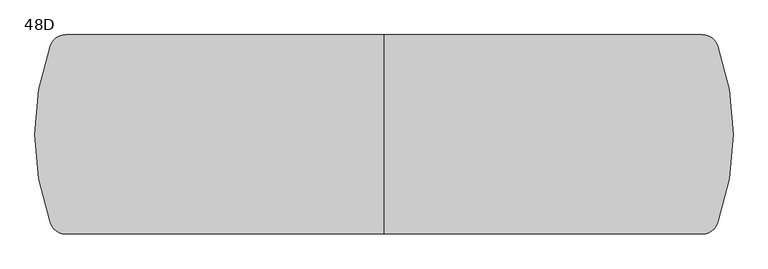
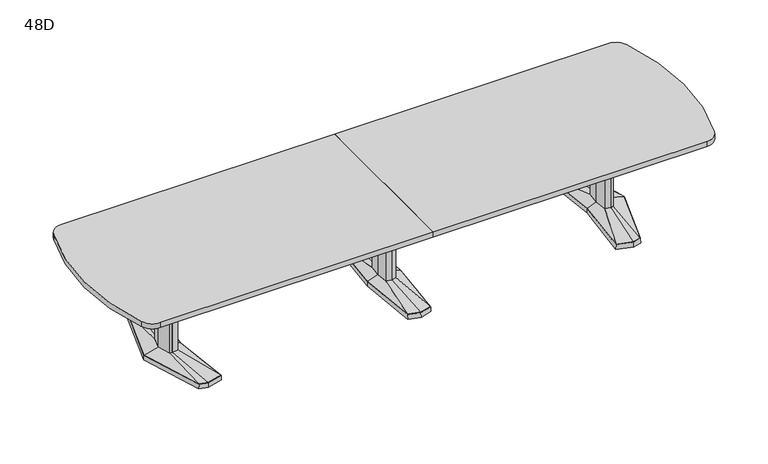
"""IFC4 building model written with IfcOpenShell, lengths in millimetres: furniture geometry, Coalesse_AM_Table_Conference_ETable2_SoftRadiused_14ft_AluminiumBase : 48D."""

from ifc_helpers import new_model, si_unit, point, frame, frame_2d, origin, place, context, project, spatial, polyline, circle_curve, trimmed, segment, composite_curve, outline, extrude, faceted_brep, source, transform, mapped, element, save
from ifc_brep_helpers import plane_surface, spline_surface, advanced_brep


def furniture_48d_125f9e31(model_context):
    return source(origin(), model_context, "Body", "SolidModel", [
        faceted_brep([(-81.2333791, -433.8053819, 38.1), (0.0, -455.556576, 38.1), (81.2333791, -433.8053819, 38.1), (119.0564774, 0.0, 38.1), (81.2333791, 433.8053819, 38.1), (0.0, 455.556576, 38.1), (-81.2333791, 433.8053819, 38.1), (-119.0564774, 0.0, 38.1), (-82.7182795, -435.0512063, 3.175), (-120.65, 0.0, 3.175), (-82.7182795, 435.0512063, 3.175), (0.0, 457.2, 3.175), (82.7182795, 435.0512063, 3.175), (120.65, 0.0, 3.175), (82.7182795, -435.0512063, 3.175), (0.0, -457.2, 3.175), (0.0, 429.2617927, 3.175), (-77.9676806, 408.3850278, 3.175), (-74.7019821, 382.9646737, 3.175), (0.0, 402.9670094, 3.175), (74.7019821, 382.9646737, 3.175), (77.9676806, 408.3850278, 3.175), (0.0, -429.2617927, 3.175), (77.9676806, -408.3850278, 3.175), (74.7019821, -382.9646737, 3.175), (0.0, -402.9670094, 3.175), (-74.7019821, -382.9646737, 3.175), (-77.9676806, -408.3850278, 3.175), (-71.8574262, 114.6326257, 3.175), (-82.5426076, 0.0, 3.175), (-71.8574262, -114.6326257, 3.175), (0.0, -133.8761372, 3.175), (71.8574262, -114.6326257, 3.175), (82.5426076, 0.0, 3.175), (71.8574262, 114.6326257, 3.175), (0.0, 133.8761372, 3.175), (0.0, 429.2617927, 0.0), (77.9676806, 408.3850278, 0.0), (74.7019821, 382.9646737, 0.0), (0.0, 402.9670094, 0.0), (-74.7019821, 382.9646737, 0.0), (-77.9676806, 408.3850278, 0.0), (0.0, -429.2617927, 0.0), (-77.9676806, -408.3850278, 0.0), (-74.7019821, -382.9646737, 0.0), (0.0, -402.9670094, 0.0), (74.7019821, -382.9646737, 0.0), (77.9676806, -408.3850278, 0.0), (-71.8574262, 114.6326257, 0.0), (0.0, 133.8761372, 0.0), (71.8574262, 114.6326257, 0.0), (82.5426076, 0.0, 0.0), (71.8574262, -114.6326257, 0.0), (0.0, -133.8761372, 0.0), (-71.8574262, -114.6326257, 0.0), (-82.5426076, 0.0, 0.0)], [[[0, 1, 2, 3, 4, 5, 6, 7]], [[8, 9, 10, 11, 12, 13, 14, 15], [16, 17, 18, 19, 20, 21], [22, 23, 24, 25, 26, 27], [28, 29, 30, 31, 32, 33, 34, 35]], [[1, 0, 8, 15]], [[2, 1, 15, 14]], [[3, 2, 14, 13]], [[4, 3, 13, 12]], [[5, 4, 12, 11]], [[6, 5, 11, 10]], [[7, 6, 10, 9]], [[0, 7, 9, 8]], [[36, 37, 38, 39, 40, 41]], [[42, 43, 44, 45, 46, 47]], [[48, 49, 50, 51, 52, 53, 54, 55]], [[36, 41, 17, 16]], [[41, 40, 18, 17]], [[40, 39, 19, 18]], [[39, 38, 20, 19]], [[38, 37, 21, 20]], [[37, 36, 16, 21]], [[42, 47, 23, 22]], [[47, 46, 24, 23]], [[46, 45, 25, 24]], [[45, 44, 26, 25]], [[44, 43, 27, 26]], [[43, 42, 22, 27]], [[48, 55, 29, 28]], [[55, 54, 30, 29]], [[54, 53, 31, 30]], [[53, 52, 32, 31]], [[52, 51, 33, 32]], [[51, 50, 34, 33]], [[50, 49, 35, 34]], [[49, 48, 28, 35]]]),
        faceted_brep([(-36.3832834, 84.6900825, 698.5), (-44.2774487, 0.0, 698.5), (-36.3832834, -84.6900825, 698.5), (0.0, -94.4335728, 698.5), (36.3832834, -84.6900825, 698.5), (44.2774487, 0.0, 698.5), (36.3832834, 84.6900825, 698.5), (0.0, 94.4335728, 698.5), (-36.3832834, 84.6900825, 63.5), (0.0, 94.4335728, 63.5), (36.3832834, 84.6900825, 63.5), (44.2774487, 0.0, 63.5), (36.3832834, -84.6900825, 63.5), (0.0, -94.4335728, 63.5), (-36.3832834, -84.6900825, 63.5), (-44.2774487, 0.0, 63.5)], [[[0, 1, 2, 3, 4, 5, 6, 7]], [[8, 9, 10, 11, 12, 13, 14, 15]], [[1, 0, 8, 15]], [[2, 1, 15, 14]], [[3, 2, 14, 13]], [[4, 3, 13, 12]], [[5, 4, 12, 11]], [[6, 5, 11, 10]], [[7, 6, 10, 9]], [[0, 7, 9, 8]]]),
        advanced_brep(
        [(-36.3832834, 84.6900825, 63.5), (-44.2774487, 0.0, 63.5), (-36.3832834, -84.6900825, 63.5), (0.0, -94.4335728, 63.5), (36.3832834, -84.6900825, 63.5), (44.2774487, 0.0, 63.5), (36.3832834, 84.6900825, 63.5), (0.0, 94.4335728, 63.5), (-81.2333791, 433.8053819, 38.1), (0.0, 455.556576, 38.1), (81.2333791, 433.8053819, 38.1), (119.0564774, 0.0, 38.1), (81.2333791, -433.8053819, 38.1), (0.0, -455.556576, 38.1), (-81.2333791, -433.8053819, 38.1), (-119.0564774, 0.0, 38.1)],
        [
            (0, 1),
            (1, 2),
            (2, 3),
            (3, 4),
            (4, 5),
            (5, 6),
            (6, 7),
            (7, 0),
            (8, 9),
            (9, 10),
            (10, 11),
            (11, 12),
            (12, 13),
            (13, 14),
            (14, 15),
            (15, 8),
            (15, 1),
            (0, 8),
            (14, 2),
            (13, 3),
            (12, 4),
            (11, 5),
            (10, 6),
            (9, 7),
        ],
        [
            plane_surface(frame((0.0, 0.0, 63.5), z_axis=(0.0, 0.0, 1.0000000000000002), x_axis=(-0.9659615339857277, -0.25868574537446, 0.0))),
            plane_surface(frame((0.0, 0.0, 38.1), z_axis=(0.0, 0.0, -1.0000000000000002), x_axis=(-0.9659615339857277, -0.25868574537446, 0.0))),
            spline_surface(1, 1, [[(-81.2333791, 433.8053819, 38.1), (-36.3832834, 84.6900825, 63.5)], [(-119.0564774, 0.0, 38.1), (-44.2774487, 0.0, 63.5)]], [2, 2], [2, 2], [0.0, 1.0], [0.0, 1.0]),
            spline_surface(1, 1, [[(-119.0564774, 0.0, 38.1), (-44.2774487, 0.0, 63.5)], [(-81.2333791, -433.8053819, 38.1), (-36.3832834, -84.6900825, 63.5)]], [2, 2], [2, 2], [0.0, 1.0], [0.0, 1.0]),
            spline_surface(1, 1, [[(-81.2333791, -433.8053819, 38.1), (-36.3832834, -84.6900825, 63.5)], [(0.0, -455.556576, 38.1), (0.0, -94.4335728, 63.5)]], [2, 2], [2, 2], [0.0, 1.0], [0.0, 1.0]),
            spline_surface(1, 1, [[(0.0, -455.556576, 38.1), (0.0, -94.4335728, 63.5)], [(81.2333791, -433.8053819, 38.1), (36.3832834, -84.6900825, 63.5)]], [2, 2], [2, 2], [0.0, 1.0], [0.0, 1.0]),
            spline_surface(1, 1, [[(81.2333791, -433.8053819, 38.1), (36.3832834, -84.6900825, 63.5)], [(119.0564774, 0.0, 38.1), (44.2774487, 0.0, 63.5)]], [2, 2], [2, 2], [0.0, 1.0], [0.0, 1.0]),
            spline_surface(1, 1, [[(119.0564774, 0.0, 38.1), (44.2774487, 0.0, 63.5)], [(81.2333791, 433.8053819, 38.1), (36.3832834, 84.6900825, 63.5)]], [2, 2], [2, 2], [0.0, 1.0], [0.0, 1.0]),
            spline_surface(1, 1, [[(81.2333791, 433.8053819, 38.1), (36.3832834, 84.6900825, 63.5)], [(0.0, 455.556576, 38.1), (0.0, 94.4335728, 63.5)]], [2, 2], [2, 2], [0.0, 1.0], [0.0, 1.0]),
            spline_surface(1, 1, [[(0.0, 455.556576, 38.1), (0.0, 94.4335728, 63.5)], [(-81.2333791, 433.8053819, 38.1), (-36.3832834, 84.6900825, 63.5)]], [2, 2], [2, 2], [0.0, 1.0], [0.0, 1.0]),
        ],
        [
            (0, [[1, 2, 3, 4, 5, 6, 7, 8]]),
            (1, [[9, 10, 11, 12, 13, 14, 15, 16]]),
            (2, [[-16, 17, -1, 18]]),
            (3, [[-15, 19, -2, -17]]),
            (4, [[-14, 20, -3, -19]]),
            (5, [[-13, 21, -4, -20]]),
            (6, [[-12, 22, -5, -21]]),
            (7, [[-11, 23, -6, -22]]),
            (8, [[-10, 24, -7, -23]]),
            (9, [[-9, -18, -8, -24]]),
        ],
    ),
        faceted_brep([(1515.4306835, 455.5848221, 38.1), (1405.8531277, 426.2263816, 38.1), (1447.0163717, 0.0, 38.1), (1405.8531277, -426.2263816, 38.1), (1515.4306835, -455.5848221, 38.1), (1571.5570396, -440.5478297, 38.1), (1708.8684269, 0.0, 38.1), (1571.5570396, 440.5478297, 38.1), (1515.4306754, 457.2283104, 3.175), (1572.8124472, 441.8549756, 3.175), (1710.53125, 0.0, 3.175), (1572.8124472, -441.8549756, 3.175), (1515.4306754, -457.2283104, 3.175), (1404.14375, -427.4118891, 3.175), (1445.4214856, 0.0, 3.175), (1404.14375, 427.4118891, 3.175), (1519.020115, 428.3273875, 3.175), (1413.9718228, 402.1057253, 3.175), (1422.090518, 377.985069, 3.175), (1522.6095466, 401.0699529, 3.175), (1573.1691725, 387.524361, 3.175), (1572.3631061, 414.0360954, 3.175), (1519.020115, -428.3273875, 3.175), (1572.3631061, -414.0360954, 3.175), (1573.1691725, -387.524361, 3.175), (1522.6095466, -401.0699529, 3.175), (1422.090518, -377.985069, 3.175), (1413.9718228, -402.1057253, 3.175), (1645.6153621, 0.0, 3.175), (1613.3459611, 120.4193755, 3.175), (1564.6987222, 133.471665, 3.175), (1484.8180526, 119.4176561, 3.175), (1473.6868466, 0.0, 3.175), (1484.8180526, -119.4176561, 3.175), (1564.6987222, -133.471665, 3.175), (1613.3459611, -120.4193755, 3.175), (1519.020115, 428.3273875, 0.0), (1572.3631061, 414.0360954, 0.0), (1573.1691725, 387.524361, 0.0), (1522.6095466, 401.0699529, 0.0), (1422.090518, 377.985069, 0.0), (1413.9718228, 402.1057253, 0.0), (1519.020115, -428.3273875, 0.0), (1413.9718228, -402.1057253, 0.0), (1422.090518, -377.985069, 0.0), (1522.6095466, -401.0699529, 0.0), (1573.1691725, -387.524361, 0.0), (1572.3631061, -414.0360954, 0.0), (1645.6153621, 0.0, 0.0), (1613.3459611, -120.4193755, 0.0), (1564.6987222, -133.471665, 0.0), (1484.8180526, -119.4176561, 0.0), (1473.6868466, 0.0, 0.0), (1484.8180526, 119.4176561, 0.0), (1564.6987222, 133.471665, 0.0), (1613.3459611, 120.4193755, 0.0)], [[[0, 1, 2, 3, 4, 5, 6, 7]], [[8, 9, 10, 11, 12, 13, 14, 15], [16, 17, 18, 19, 20, 21], [22, 23, 24, 25, 26, 27], [28, 29, 30, 31, 32, 33, 34, 35]], [[7, 9, 8, 0]], [[6, 10, 9, 7]], [[5, 11, 10, 6]], [[4, 12, 11, 5]], [[3, 13, 12, 4]], [[2, 14, 13, 3]], [[1, 15, 14, 2]], [[0, 8, 15, 1]], [[36, 37, 38, 39, 40, 41]], [[42, 43, 44, 45, 46, 47]], [[48, 49, 50, 51, 52, 53, 54, 55]], [[36, 16, 21, 37]], [[37, 21, 20, 38]], [[38, 20, 19, 39]], [[39, 19, 18, 40]], [[40, 18, 17, 41]], [[41, 17, 16, 36]], [[42, 22, 27, 43]], [[43, 27, 26, 44]], [[44, 26, 25, 45]], [[45, 25, 24, 46]], [[46, 24, 23, 47]], [[47, 23, 22, 42]], [[48, 28, 35, 49]], [[49, 35, 34, 50]], [[50, 34, 33, 51]], [[51, 33, 32, 52]], [[52, 32, 31, 53]], [[53, 31, 30, 54]], [[54, 30, 29, 55]], [[55, 29, 28, 48]]]),
        faceted_brep([(1606.1710836, 0.0, 698.5), (1582.2358546, 89.3188359, 698.5), (1565.3824984, 93.8406728, 698.5), (1562.9826511, 94.4845635, 698.5), (1520.055146, 86.9320037, 698.5), (1511.9520056, 0.0, 698.5), (1520.055146, -86.9320037, 698.5), (1562.9826511, -94.4845635, 698.5), (1565.3824984, -93.8406728, 698.5), (1582.2358546, -89.3188359, 698.5), (1606.1710836, 0.0, 63.5), (1582.2358546, -89.3188359, 63.5), (1565.3824984, -93.8406728, 63.5), (1562.9826511, -94.4845635, 63.5), (1520.055146, -86.9320037, 63.5), (1511.9520056, 0.0, 63.5), (1520.055146, 86.9320037, 63.5), (1562.9826511, 94.4845635, 63.5), (1565.3824984, 93.8406728, 63.5), (1582.2358546, 89.3188359, 63.5)], [[[0, 1, 2, 3, 4, 5, 6, 7, 8, 9]], [[10, 11, 12, 13, 14, 15, 16, 17, 18, 19]], [[9, 11, 10, 0]], [[8, 12, 11, 9]], [[7, 13, 12, 8]], [[6, 14, 13, 7]], [[5, 15, 14, 6]], [[4, 16, 15, 5]], [[3, 17, 16, 4]], [[2, 18, 17, 3]], [[1, 19, 18, 2]], [[0, 10, 19, 1]]]),
        advanced_brep(
        [(1562.9826511, 94.4845635, 63.5), (1520.055146, 86.9320037, 63.5), (1511.9520056, 0.0, 63.5), (1520.055146, -86.9320037, 63.5), (1562.9826511, -94.4845635, 63.5), (1582.2358546, -89.3188359, 63.5), (1606.1710836, 0.0, 63.5), (1582.2358546, 89.3188359, 63.5), (1515.4306835, 455.5848221, 38.1), (1571.5570396, 440.5478297, 38.1), (1708.8684269, 0.0, 38.1), (1571.5570396, -440.5478297, 38.1), (1515.4306835, -455.5848221, 38.1), (1405.8531277, -426.2263816, 38.1), (1447.0163717, 0.0, 38.1), (1405.8531277, 426.2263816, 38.1)],
        [
            (0, 1),
            (1, 2),
            (2, 3),
            (3, 4),
            (4, 5),
            (5, 6),
            (6, 7),
            (7, 0),
            (8, 9),
            (9, 10),
            (10, 11),
            (11, 12),
            (12, 13),
            (13, 14),
            (14, 15),
            (15, 8),
            (8, 0),
            (7, 9),
            (6, 10),
            (5, 11),
            (4, 12),
            (3, 13),
            (2, 14),
            (1, 15),
        ],
        [
            plane_surface(frame((1556.0837991, 0.0, 63.5), z_axis=(0.0, 0.0, 1.0), x_axis=(-0.25884244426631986, -0.9659195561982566, 0.0))),
            plane_surface(frame((1517.6958125, 0.0, 38.1), z_axis=(0.0, 0.0, -1.0), x_axis=(-0.25884244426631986, -0.9659195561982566, 0.0))),
            spline_surface(1, 1, [[(1515.4306835, 455.5848221, 38.1), (1571.5570396, 440.5478297, 38.1)], [(1562.9826511, 94.4845635, 63.5), (1582.2358546, 89.3188359, 63.5)]], [2, 2], [2, 2], [0.0, 1.0], [0.0, 1.0]),
            spline_surface(1, 1, [[(1571.5570396, 440.5478297, 38.1), (1708.8684269, 0.0, 38.1)], [(1582.2358546, 89.3188359, 63.5), (1606.1710836, 0.0, 63.5)]], [2, 2], [2, 2], [0.0, 1.0], [0.0, 1.0]),
            spline_surface(1, 1, [[(1708.8684269, 0.0, 38.1), (1571.5570396, -440.5478297, 38.1)], [(1606.1710836, 0.0, 63.5), (1582.2358546, -89.3188359, 63.5)]], [2, 2], [2, 2], [0.0, 1.0], [0.0, 1.0]),
            spline_surface(1, 1, [[(1571.5570396, -440.5478297, 38.1), (1515.4306835, -455.5848221, 38.1)], [(1582.2358546, -89.3188359, 63.5), (1562.9826511, -94.4845635, 63.5)]], [2, 2], [2, 2], [0.0, 1.0], [0.0, 1.0]),
            spline_surface(1, 1, [[(1515.4306835, -455.5848221, 38.1), (1405.8531277, -426.2263816, 38.1)], [(1562.9826511, -94.4845635, 63.5), (1520.055146, -86.9320037, 63.5)]], [2, 2], [2, 2], [0.0, 1.0], [0.0, 1.0]),
            spline_surface(1, 1, [[(1405.8531277, -426.2263816, 38.1), (1447.0163717, 0.0, 38.1)], [(1520.055146, -86.9320037, 63.5), (1511.9520056, 0.0, 63.5)]], [2, 2], [2, 2], [0.0, 1.0], [0.0, 1.0]),
            spline_surface(1, 1, [[(1447.0163717, 0.0, 38.1), (1405.8531277, 426.2263816, 38.1)], [(1511.9520056, 0.0, 63.5), (1520.055146, 86.9320037, 63.5)]], [2, 2], [2, 2], [0.0, 1.0], [0.0, 1.0]),
            spline_surface(1, 1, [[(1405.8531277, 426.2263816, 38.1), (1515.4306835, 455.5848221, 38.1)], [(1520.055146, 86.9320037, 63.5), (1562.9826511, 94.4845635, 63.5)]], [2, 2], [2, 2], [0.0, 1.0], [0.0, 1.0]),
        ],
        [
            (0, [[1, 2, 3, 4, 5, 6, 7, 8]]),
            (1, [[9, 10, 11, 12, 13, 14, 15, 16]]),
            (2, [[17, -8, 18, -9]]),
            (3, [[-18, -7, 19, -10]]),
            (4, [[-19, -6, 20, -11]]),
            (5, [[-20, -5, 21, -12]]),
            (6, [[-21, -4, 22, -13]]),
            (7, [[-22, -3, 23, -14]]),
            (8, [[-23, -2, 24, -15]]),
            (9, [[-24, -1, -17, -16]]),
        ],
    ),
        faceted_brep([(-1515.4306835, 455.5848221, 38.1), (-1571.5570396, 440.5478297, 38.1), (-1708.8684269, 0.0, 38.1), (-1571.5570396, -440.5478297, 38.1), (-1515.4306835, -455.5848221, 38.1), (-1405.8531277, -426.2263816, 38.1), (-1447.0163717, 0.0, 38.1), (-1405.8531277, 426.2263816, 38.1), (-1515.4306754, 457.2283104, 3.175), (-1404.14375, 427.4118891, 3.175), (-1445.4214856, 0.0, 3.175), (-1404.14375, -427.4118891, 3.175), (-1515.4306754, -457.2283104, 3.175), (-1572.8124472, -441.8549756, 3.175), (-1710.53125, 0.0, 3.175), (-1572.8124472, 441.8549756, 3.175), (-1519.020115, 428.3273875, 3.175), (-1572.3631061, 414.0360954, 3.175), (-1573.1691725, 387.524361, 3.175), (-1522.6095466, 401.0699529, 3.175), (-1422.090518, 377.985069, 3.175), (-1413.9718228, 402.1057253, 3.175), (-1519.020115, -428.3273875, 3.175), (-1413.9718228, -402.1057253, 3.175), (-1422.090518, -377.985069, 3.175), (-1522.6095466, -401.0699529, 3.175), (-1573.1691725, -387.524361, 3.175), (-1572.3631061, -414.0360954, 3.175), (-1645.6153621, 0.0, 3.175), (-1613.3459611, -120.4193755, 3.175), (-1564.6987222, -133.471665, 3.175), (-1484.8180526, -119.4176561, 3.175), (-1473.6868466, 0.0, 3.175), (-1484.8180526, 119.4176561, 3.175), (-1564.6987222, 133.471665, 3.175), (-1613.3459611, 120.4193755, 3.175), (-1519.020115, 428.3273875, 0.0), (-1413.9718228, 402.1057253, 0.0), (-1422.090518, 377.985069, 0.0), (-1522.6095466, 401.0699529, 0.0), (-1573.1691725, 387.524361, 0.0), (-1572.3631061, 414.0360954, 0.0), (-1519.020115, -428.3273875, 0.0), (-1572.3631061, -414.0360954, 0.0), (-1573.1691725, -387.524361, 0.0), (-1522.6095466, -401.0699529, 0.0), (-1422.090518, -377.985069, 0.0), (-1413.9718228, -402.1057253, 0.0), (-1645.6153621, 0.0, 0.0), (-1613.3459611, 120.4193755, 0.0), (-1564.6987222, 133.471665, 0.0), (-1484.8180526, 119.4176561, 0.0), (-1473.6868466, 0.0, 0.0), (-1484.8180526, -119.4176561, 0.0), (-1564.6987222, -133.471665, 0.0), (-1613.3459611, -120.4193755, 0.0)], [[[0, 1, 2, 3, 4, 5, 6, 7]], [[8, 9, 10, 11, 12, 13, 14, 15], [16, 17, 18, 19, 20, 21], [22, 23, 24, 25, 26, 27], [28, 29, 30, 31, 32, 33, 34, 35]], [[1, 0, 8, 15]], [[2, 1, 15, 14]], [[3, 2, 14, 13]], [[4, 3, 13, 12]], [[5, 4, 12, 11]], [[6, 5, 11, 10]], [[7, 6, 10, 9]], [[0, 7, 9, 8]], [[36, 37, 38, 39, 40, 41]], [[42, 43, 44, 45, 46, 47]], [[48, 49, 50, 51, 52, 53, 54, 55]], [[36, 41, 17, 16]], [[41, 40, 18, 17]], [[40, 39, 19, 18]], [[39, 38, 20, 19]], [[38, 37, 21, 20]], [[37, 36, 16, 21]], [[42, 47, 23, 22]], [[47, 46, 24, 23]], [[46, 45, 25, 24]], [[45, 44, 26, 25]], [[44, 43, 27, 26]], [[43, 42, 22, 27]], [[48, 55, 29, 28]], [[55, 54, 30, 29]], [[54, 53, 31, 30]], [[53, 52, 32, 31]], [[52, 51, 33, 32]], [[51, 50, 34, 33]], [[50, 49, 35, 34]], [[49, 48, 28, 35]]]),
        faceted_brep([(-1606.1710836, 0.0, 698.5), (-1582.2358546, -89.3188359, 698.5), (-1565.3824984, -93.8406728, 698.5), (-1562.9826511, -94.4845635, 698.5), (-1520.055146, -86.9320037, 698.5), (-1511.9520056, 0.0, 698.5), (-1520.055146, 86.9320037, 698.5), (-1562.9826511, 94.4845635, 698.5), (-1565.3824984, 93.8406728, 698.5), (-1582.2358546, 89.3188359, 698.5), (-1606.1710836, 0.0, 63.5), (-1582.2358546, 89.3188359, 63.5), (-1565.3824984, 93.8406728, 63.5), (-1562.9826511, 94.4845635, 63.5), (-1520.055146, 86.9320037, 63.5), (-1511.9520056, 0.0, 63.5), (-1520.055146, -86.9320037, 63.5), (-1562.9826511, -94.4845635, 63.5), (-1565.3824984, -93.8406728, 63.5), (-1582.2358546, -89.3188359, 63.5)], [[[0, 1, 2, 3, 4, 5, 6, 7, 8, 9]], [[10, 11, 12, 13, 14, 15, 16, 17, 18, 19]], [[1, 0, 10, 19]], [[2, 1, 19, 18]], [[3, 2, 18, 17]], [[4, 3, 17, 16]], [[5, 4, 16, 15]], [[6, 5, 15, 14]], [[7, 6, 14, 13]], [[8, 7, 13, 12]], [[9, 8, 12, 11]], [[0, 9, 11, 10]]]),
        advanced_brep(
        [(-1562.9826511, 94.4845635, 63.5), (-1582.2358546, 89.3188359, 63.5), (-1606.1710836, 0.0, 63.5), (-1582.2358546, -89.3188359, 63.5), (-1562.9826511, -94.4845635, 63.5), (-1520.055146, -86.9320037, 63.5), (-1511.9520056, 0.0, 63.5), (-1520.055146, 86.9320037, 63.5), (-1515.4306835, 455.5848221, 38.1), (-1405.8531277, 426.2263816, 38.1), (-1447.0163717, 0.0, 38.1), (-1405.8531277, -426.2263816, 38.1), (-1515.4306835, -455.5848221, 38.1), (-1571.5570396, -440.5478297, 38.1), (-1708.8684269, 0.0, 38.1), (-1571.5570396, 440.5478297, 38.1)],
        [
            (0, 1),
            (1, 2),
            (2, 3),
            (3, 4),
            (4, 5),
            (5, 6),
            (6, 7),
            (7, 0),
            (8, 9),
            (9, 10),
            (10, 11),
            (11, 12),
            (12, 13),
            (13, 14),
            (14, 15),
            (15, 8),
            (15, 1),
            (0, 8),
            (14, 2),
            (13, 3),
            (12, 4),
            (11, 5),
            (10, 6),
            (9, 7),
        ],
        [
            plane_surface(frame((-1556.0837991, 0.0, 63.5), z_axis=(0.0, 0.0, 1.0), x_axis=(0.25884244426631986, -0.9659195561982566, 0.0))),
            plane_surface(frame((-1517.6958125, 0.0, 38.1), z_axis=(0.0, 0.0, -1.0), x_axis=(0.25884244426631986, -0.9659195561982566, 0.0))),
            spline_surface(1, 1, [[(-1515.4306835, 455.5848221, 38.1), (-1562.9826511, 94.4845635, 63.5)], [(-1571.5570396, 440.5478297, 38.1), (-1582.2358546, 89.3188359, 63.5)]], [2, 2], [2, 2], [0.0, 1.0], [0.0, 1.0]),
            spline_surface(1, 1, [[(-1571.5570396, 440.5478297, 38.1), (-1582.2358546, 89.3188359, 63.5)], [(-1708.8684269, 0.0, 38.1), (-1606.1710836, 0.0, 63.5)]], [2, 2], [2, 2], [0.0, 1.0], [0.0, 1.0]),
            spline_surface(1, 1, [[(-1708.8684269, 0.0, 38.1), (-1606.1710836, 0.0, 63.5)], [(-1571.5570396, -440.5478297, 38.1), (-1582.2358546, -89.3188359, 63.5)]], [2, 2], [2, 2], [0.0, 1.0], [0.0, 1.0]),
            spline_surface(1, 1, [[(-1571.5570396, -440.5478297, 38.1), (-1582.2358546, -89.3188359, 63.5)], [(-1515.4306835, -455.5848221, 38.1), (-1562.9826511, -94.4845635, 63.5)]], [2, 2], [2, 2], [0.0, 1.0], [0.0, 1.0]),
            spline_surface(1, 1, [[(-1515.4306835, -455.5848221, 38.1), (-1562.9826511, -94.4845635, 63.5)], [(-1405.8531277, -426.2263816, 38.1), (-1520.055146, -86.9320037, 63.5)]], [2, 2], [2, 2], [0.0, 1.0], [0.0, 1.0]),
            spline_surface(1, 1, [[(-1405.8531277, -426.2263816, 38.1), (-1520.055146, -86.9320037, 63.5)], [(-1447.0163717, 0.0, 38.1), (-1511.9520056, 0.0, 63.5)]], [2, 2], [2, 2], [0.0, 1.0], [0.0, 1.0]),
            spline_surface(1, 1, [[(-1447.0163717, 0.0, 38.1), (-1511.9520056, 0.0, 63.5)], [(-1405.8531277, 426.2263816, 38.1), (-1520.055146, 86.9320037, 63.5)]], [2, 2], [2, 2], [0.0, 1.0], [0.0, 1.0]),
            spline_surface(1, 1, [[(-1405.8531277, 426.2263816, 38.1), (-1520.055146, 86.9320037, 63.5)], [(-1515.4306835, 455.5848221, 38.1), (-1562.9826511, 94.4845635, 63.5)]], [2, 2], [2, 2], [0.0, 1.0], [0.0, 1.0]),
        ],
        [
            (0, [[1, 2, 3, 4, 5, 6, 7, 8]]),
            (1, [[9, 10, 11, 12, 13, 14, 15, 16]]),
            (2, [[-16, 17, -1, 18]]),
            (3, [[-15, 19, -2, -17]]),
            (4, [[-14, 20, -3, -19]]),
            (5, [[-13, 21, -4, -20]]),
            (6, [[-12, 22, -5, -21]]),
            (7, [[-11, 23, -6, -22]]),
            (8, [[-10, 24, -7, -23]]),
            (9, [[-9, -18, -8, -24]]),
        ],
    ),
        extrude(outline(polyline([(96.8375, 698.5), (103.1875, 698.5), (103.1875, 476.25), (-103.1875, 476.25), (-103.1875, 698.5), (-96.8375, 698.5), (-96.8375, 482.6), (96.8375, 482.6), (96.8375, 698.5)])), frame((44.2774487, 0.0, 0.0), z_axis=(1.0, 0.0, 0.0), x_axis=(0.0, 1.0, 0.0)), (0.0, 0.0, 1.0), 1467.8163013),
        extrude(outline(composite_curve([segment(trimmed(circle_curve(frame_2d((1944.4557965, 508.0)), 101.6), [point((1944.4557965, 609.6))], [point((2040.2453259, 541.8662966))], False, "CARTESIAN"), True, "CONTINUOUS"), segment(polyline([(2040.2453259, 541.8662966), (2040.9956256, 539.7441026)]), True, "CONTINUOUS"), segment(trimmed(circle_curve(frame_2d((514.35, 0.0)), 1619.25), [point((2040.9956256, 539.7441026))], [point((2040.9956256, -539.7441026))], False, "CARTESIAN"), True, "CONTINUOUS"), segment(polyline([(2040.9956256, -539.7441026), (2040.2453259, -541.8662966)]), True, "CONTINUOUS"), segment(trimmed(circle_curve(frame_2d((1944.4557965, -508.0)), 101.6), [point((2040.2453259, -541.8662966))], [point((1944.4557965, -609.6))], False, "CARTESIAN"), True, "CONTINUOUS"), segment(polyline([(1944.4557965, -609.6), (0.0, -609.6), (0.0, 609.6), (1944.4557965, 609.6)]), True, "CONTINUOUS")], self_intersect=False)), frame((0.0, 0.0, 698.5), z_axis=(0.0, 0.0, 1.0), x_axis=(1.0, 0.0, 0.0)), (0.0, 0.0, 1.0), 38.1),
        extrude(outline(composite_curve([segment(polyline([(-1944.4557965, 609.6), (0.0, 609.6), (0.0, -609.6), (-1944.4557965, -609.6)]), True, "CONTINUOUS"), segment(trimmed(circle_curve(frame_2d((-1944.4557965, -508.0)), 101.6), [point((-1944.4557965, -609.6))], [point((-2040.2453259, -541.8662966))], False, "CARTESIAN"), True, "CONTINUOUS"), segment(polyline([(-2040.2453259, -541.8662966), (-2040.9956256, -539.7441026)]), True, "CONTINUOUS"), segment(trimmed(circle_curve(frame_2d((-514.35, 0.0)), 1619.25), [point((-2040.9956256, -539.7441026))], [point((-2040.9956256, 539.7441026))], False, "CARTESIAN"), True, "CONTINUOUS"), segment(polyline([(-2040.9956256, 539.7441026), (-2040.2453259, 541.8662966)]), True, "CONTINUOUS"), segment(trimmed(circle_curve(frame_2d((-1944.4557965, 508.0)), 101.6), [point((-2040.2453259, 541.8662966))], [point((-1944.4557965, 609.6))], False, "CARTESIAN"), True, "CONTINUOUS")], self_intersect=False)), frame((0.0, 0.0, 698.5), z_axis=(0.0, 0.0, 1.0), x_axis=(1.0, 0.0, 0.0)), (0.0, 0.0, 1.0), 38.1),
        extrude(outline(polyline([(96.8375, 698.5), (103.1875, 698.5), (103.1875, 476.25), (-103.1875, 476.25), (-103.1875, 698.5), (-96.8375, 698.5), (-96.8375, 482.6), (96.8375, 482.6), (96.8375, 698.5)])), frame((-1512.09375, 0.0, 0.0), z_axis=(1.0, 0.0, 0.0), x_axis=(0.0, 1.0, 0.0)), (0.0, 0.0, 1.0), 1467.8163013),
    ])


if __name__ == "__main__":
    model = new_model("IFC4")
    model_context = context("Model", 3, world=origin())
    ifc_project = project(units=[si_unit("LENGTHUNIT", "METRE", prefix="MILLI")], contexts=[model_context])
    site = spatial("IfcSite", under=ifc_project)
    building = spatial("IfcBuilding", under=site)
    placement = place(None, origin())
    furniture_48d_shape = furniture_48d_125f9e31(model_context)
    element("IfcFurniture", 1, ObjectType="Coalesse_AM_Table_Conference_ETable2_SoftRadiused_14ft_AluminiumBase : 48D", at=placement, inside=building, context=model_context, shape_type="MappedRepresentation", body=[
        mapped(furniture_48d_shape, transform((0.0, 0.0, 0.0), x_axis=(1.0, 0.0, 0.0), y_axis=(0.0, 1.0, 0.0), z_axis=(0.0, 0.0, 1.0))),
    ])
    save(model, "model.ifc")
